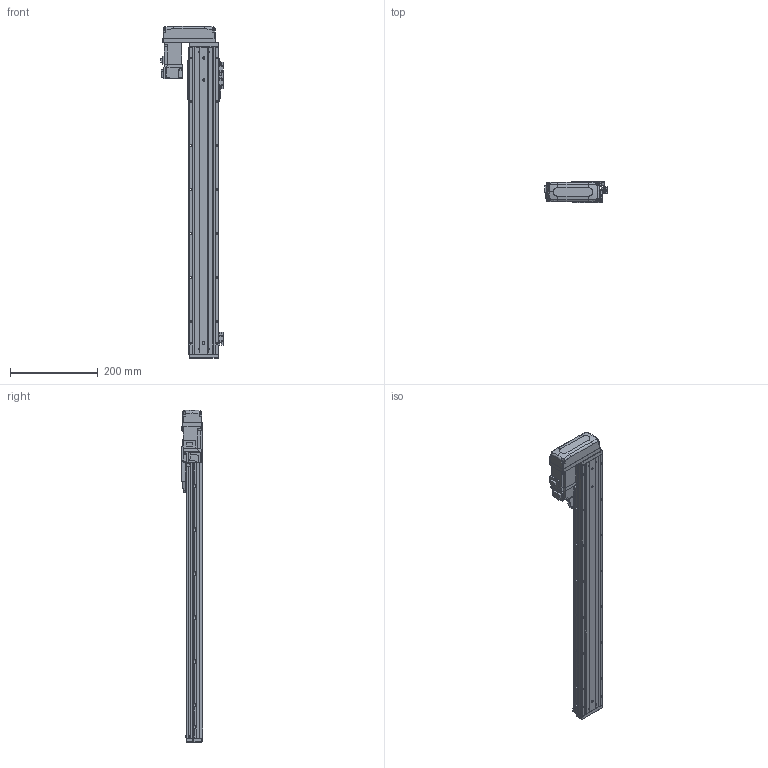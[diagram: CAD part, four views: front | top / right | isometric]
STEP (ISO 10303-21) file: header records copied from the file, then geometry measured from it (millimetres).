
FILE_DESCRIPTION (( 'STEP AP203' ), '1' );
FILE_NAME ('CTHA60-550-BR-M10-C4L.step', '2022-03-19T06:22:41', ( '微软用户' ), ( '微软中国' ), 'SwSTEP 2.0', 'SolidWorks 2020', '' );
FILE_SCHEMA (( 'CONFIG_CONTROL_DESIGN' ));
Length unit declared in the file: millimetre
Products named in the file (18): CTHA60-031; CTHA60-017; CTHA60-006-1; CTHA60-021; CTHA60-033; CTHA60-001_700; GBT 70.1-M4×16; GBT 70.3-M3℅6; CTHA60-550-BR-M10-C4L; CTHA60-004; GBT77-2000 M3×3; CTHA60-016; CTHA60-005; GBT 70.1-M3℅6; HG-KR13（三菱）; GB¨uT 70.2-M3¡Á6_M3¡Á6; CTHA60-002; EE_SX911P_R
Assembly tree (54 placements, depth 2):
  CTHA60-550-BR-M10-C4L
    CTHA60-001_700
    CTHA60-004
    CTHA60-005
    GB¨uT 70.2-M3¡Á6_M3¡Á6  x10
    EE_SX911P_R  x3
    CTHA60-017  x3
    CTHA60-021  x2
    GBT 70.1-M4×16  x10
    GBT77-2000 M3×3  x6
    GBT 70.1-M3℅6  x6
    GBT 70.3-M3℅6  x4
    CTHA60-016  x2
    HG-KR13（三菱）
    CTHA60-002
    CTHA60-031
    CTHA60-006-1
    CTHA60-033
Bounding box: 143.62 x 48 x 757 mm (x, y, z)
Volume: 1329709 mm3; surface area: 401709.2 mm2
Topology: 56 solids, 56 shells, 2534 faces, 6093 edges, 3757 vertices
Faces by surface type: plane 1461, cylinder 583, cone 342, torus 92, bspline 32, sphere 24
Entity records: 45657 total; most frequent: CARTESIAN_POINT 8810, DIRECTION 7056, ORIENTED_EDGE 6994, EDGE_CURVE 3497, LINE 2484, VECTOR 2484, AXIS2_PLACEMENT_3D 2286, VERTEX_POINT 2216
